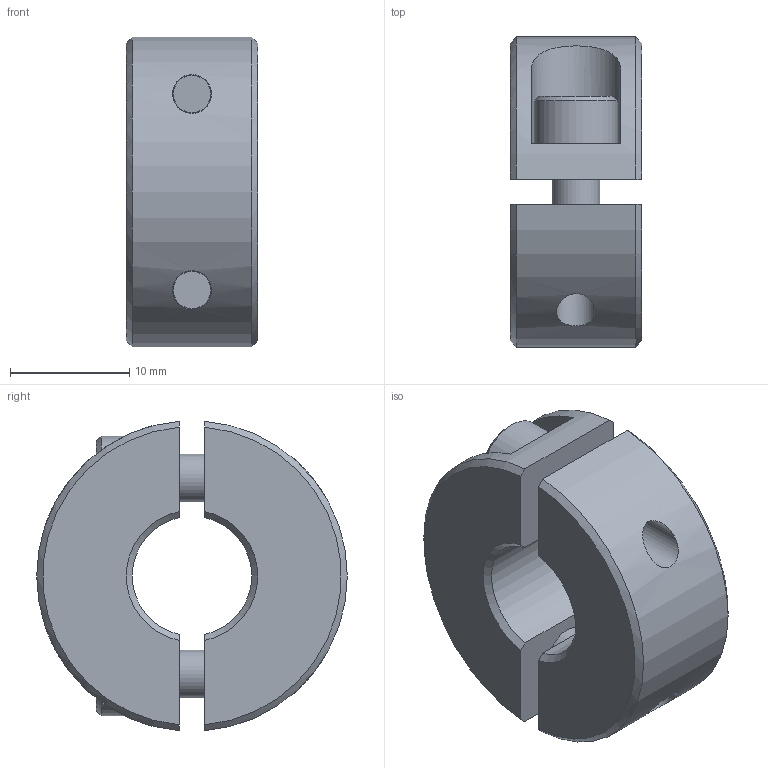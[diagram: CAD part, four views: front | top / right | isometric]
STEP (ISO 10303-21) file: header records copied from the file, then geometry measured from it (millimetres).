
FILE_DESCRIPTION(/* description */ ('STEP AP214'),/* implementation_level */ '2;1');
FILE_NAME(/* name */ 'Split Shaft Collar_ Aluminum GN 707.2-26-B10-AL',/* time_stamp */ '2024-06-10T15:26:13+02:00',/* author */ ('License CC BY-ND 4.0'),/* organization */ ('CADENAS'),/* preprocessor_version */ 'ST-DEVELOPER v19.3',/* originating_system */ 'PARTsolutions',/* authorisation */ ' ');
FILE_SCHEMA (('AUTOMOTIVE_DESIGN {1 0 10303 214 3 1 1}'));
Length unit declared in the file: millimetre
Products named in the file (1): Split Shaft Collar, Aluminum GN 707.2-26-B10-AL
Bounding box: 11 x 26 x 25.92 mm (x, y, z)
Volume: 4278.1 mm3; surface area: 2905.2 mm2
Topology: 1 solids, 1 shells, 72 faces, 168 edges, 108 vertices
Faces by surface type: plane 44, cylinder 14, cone 14
Full cylindrical faces by diameter (mm): 3.242 x2, 4 x2, 4.3 x2, 7 x2
Entity records: 2506 total; most frequent: CARTESIAN_POINT 421, DIRECTION 324, ORIENTED_EDGE 292, EDGE_CURVE 146, AXIS2_PLACEMENT_3D 125, VERTEX_POINT 102, FACE_BOUND 100, EDGE_LOOP 98
